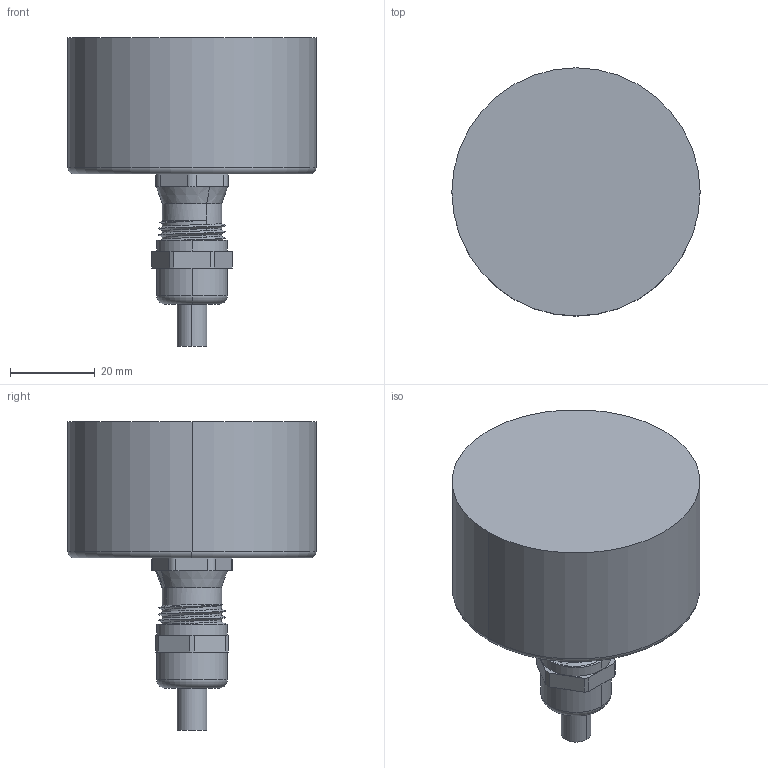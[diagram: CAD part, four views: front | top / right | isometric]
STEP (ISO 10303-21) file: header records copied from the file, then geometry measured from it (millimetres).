
FILE_DESCRIPTION (( 'STEP AP214' ), '1' );
FILE_NAME ('drawing-mc-5-ca-322-sws-12bnnn-n-2av-l.STEP', '2018-05-17T13:52:25', ( '' ), ( '' ), 'SwSTEP 2.0', 'SolidWorks 2017', '' );
FILE_SCHEMA (( 'AUTOMOTIVE_DESIGN' ));
Length unit declared in the file: millimetre
Products named in the file (1): drawing-mc-5-ca-322-sws-12bnnn-n-2av-l
Bounding box: 58.6 x 58.6 x 72.9 mm (x, y, z)
Volume: 13633.1 mm3; surface area: 28429.8 mm2
Topology: 8 solids, 8 shells, 375 faces, 998 edges, 650 vertices
Faces by surface type: plane 171, cylinder 152, torus 33, bspline 9, cone 8, sphere 2
Entity records: 17435 total; most frequent: CARTESIAN_POINT 4011, ORIENTED_EDGE 1984, DIRECTION 1901, EDGE_CURVE 992, AXIS2_PLACEMENT_3D 740, VERTEX_POINT 648, LINE 421, VECTOR 421
